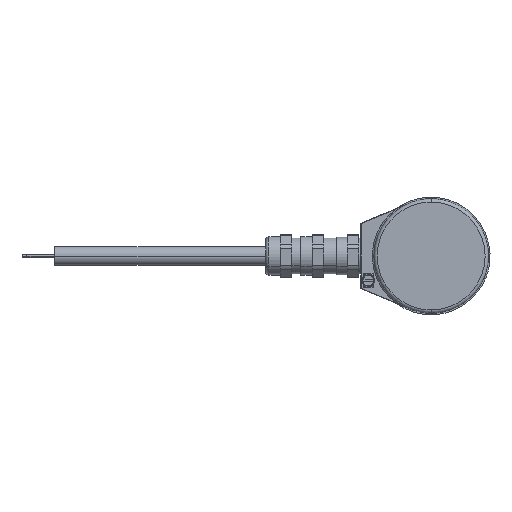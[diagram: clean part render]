
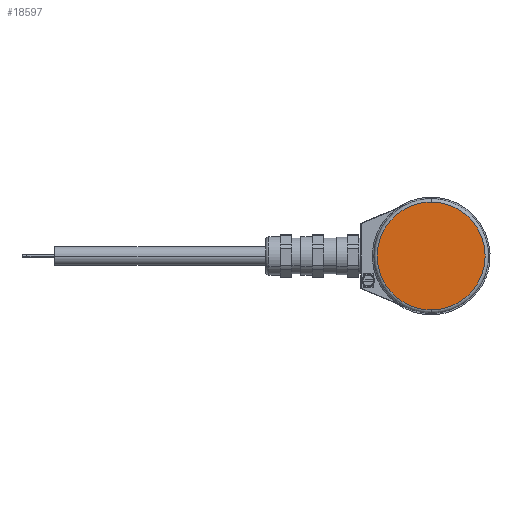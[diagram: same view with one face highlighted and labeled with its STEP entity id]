
A CAD part, left-side view. The second image highlights one B-rep face of the part: STEP entity #18597.
In plain terms, the highlighted planar face has unit normal (-1, 0, 0).
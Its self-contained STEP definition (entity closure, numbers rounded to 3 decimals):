
#325 = CIRCLE ( 'NONE', #4809, 33. ) ;
#768 = DIRECTION ( 'NONE',  ( 1., 0., 0. ) ) ;
#1331 = AXIS2_PLACEMENT_3D ( 'NONE', #12151, #768, #10504 ) ;
#1337 = CARTESIAN_POINT ( 'NONE',  ( -70.2, 0., -33. ) ) ;
#1761 = DIRECTION ( 'NONE',  ( 1., 0., 0. ) ) ;
#2588 = DIRECTION ( 'NONE',  ( 0., 0., 1. ) ) ;
#2788 = PLANE ( 'NONE',  #11564 ) ;
#2813 = CARTESIAN_POINT ( 'NONE',  ( -70.2, 0., 33. ) ) ;
#3877 = DIRECTION ( 'NONE',  ( 0., 0., 1. ) ) ;
#4807 = ORIENTED_EDGE ( 'NONE', *, *, #18757, .F. ) ;
#4809 = AXIS2_PLACEMENT_3D ( 'NONE', #5502, #15279, #3877 ) ;
#5502 = CARTESIAN_POINT ( 'NONE',  ( -70.2, 0., 0. ) ) ;
#5974 = EDGE_CURVE ( 'NONE', #7393, #7811, #325, .T. ) ;
#6373 = CIRCLE ( 'NONE', #1331, 33. ) ;
#7149 = EDGE_LOOP ( 'NONE', ( #16208, #4807 ) ) ;
#7393 = VERTEX_POINT ( 'NONE', #2813 ) ;
#7811 = VERTEX_POINT ( 'NONE', #1337 ) ;
#10504 = DIRECTION ( 'NONE',  ( 0., 0., 1. ) ) ;
#10871 = CARTESIAN_POINT ( 'NONE',  ( -70.2, -33., 0. ) ) ;
#11564 = AXIS2_PLACEMENT_3D ( 'NONE', #10871, #1761, #2588 ) ;
#12151 = CARTESIAN_POINT ( 'NONE',  ( -70.2, 0., 0. ) ) ;
#15279 = DIRECTION ( 'NONE',  ( 1., 0., 0. ) ) ;
#16208 = ORIENTED_EDGE ( 'NONE', *, *, #5974, .F. ) ;
#18597 = ADVANCED_FACE ( 'NONE', ( #21253 ), #2788, .F. ) ;
#18757 = EDGE_CURVE ( 'NONE', #7811, #7393, #6373, .T. ) ;
#21253 = FACE_OUTER_BOUND ( 'NONE', #7149, .T. ) ;
